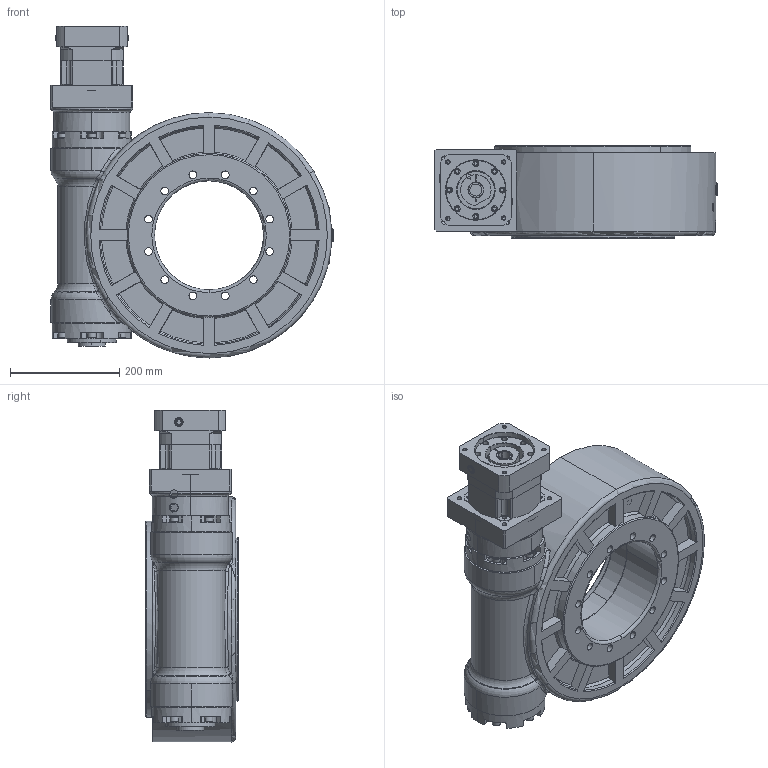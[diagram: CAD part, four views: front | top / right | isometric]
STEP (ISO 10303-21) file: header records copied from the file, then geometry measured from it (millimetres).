
FILE_DESCRIPTION((''),'2;1');
FILE_NAME('215HP_ASM','2021-12-06T14:23:34',('Administrator'),(''),'CREO PARAMETRIC BY PTC INC, 2018050','CREO PARAMETRIC BY PTC INC, 2018050','');
FILE_SCHEMA(('CONFIG_CONTROL_DESIGN'));
Length unit declared in the file: millimetre
Products named in the file (40): HC415HP-02-0300; M10-33874000; HC415HP-02-0200; TC-360-400001; M10-36880000; HC415HP-02-0400; M12000; TC-265-290001; HC215HP-01-0100; ZG100; HC215HP-01-0200; HC215HP-01-03000; _304950; _607000; M20X100_ASM; _912300; _917180; HC415HP-02-0500_ASM; TC50-60001; ZG300; HC215-02-0100; 215HP_1_ASM; HC415HP-02-04-110; __-__0001; __2-2410001; __2-5450001; __-_-0001; __-_-0002; _A_-_-0001; __-59860001; __-_0001; __-__M8X20L_-_0001; __-91900001; __-_--108530001; __-_--129680001; __-_-0003; NONE; 115130_0001_ASM; KB115-L1_22-110-145-M8__ASM; 215HP_ASM
Assembly tree (72 placements, depth 4):
  215HP_ASM
    215HP_1_ASM
      HC415HP-02-0300  x2
      M10-33874000  x12
      HC415HP-02-0200  x2
      TC-360-400001
      M10-36880000  x6
      HC415HP-02-0400
      M12000  x12
      TC-265-290001
      HC215HP-01-0100
      ZG100  x3
      HC215HP-01-0200
      HC215HP-01-03000
      M20X100_ASM
        _304950
        _607000
      HC415HP-02-0500_ASM
        _912300
        _917180
      TC50-60001  x2
      ZG300  x2
      HC215-02-0100
    HC415HP-02-04-110
    KB115-L1_22-110-145-M8__ASM
      115130_0001_ASM
        __-__0001
        __2-2410001
        __2-5450001
        __-_-0001
        __-_-0002
        _A_-_-0001
        __-59860001
        __-_0001
        __-__M8X20L_-_0001
        __-91900001
        __-_--108530001
        __-_--129680001
        __-_-0003
        NONE
Bounding box: 517.5 x 170 x 609 mm (x, y, z)
Volume: 25776695.8 mm3; surface area: 2421349 mm2
Topology: 67 solids, 68 shells, 2472 faces, 6145 edges, 3956 vertices
Faces by surface type: cylinder 1073, plane 801, cone 274, torus 248, bspline 64, revolution 8, sphere 4
Entity records: 66780 total; most frequent: CARTESIAN_POINT 25022, DIRECTION 9163, ORIENTED_EDGE 8210, EDGE_CURVE 4105, AXIS2_PLACEMENT_3D 3781, VERTEX_POINT 2715, CIRCLE 2019, EDGE_LOOP 1998
